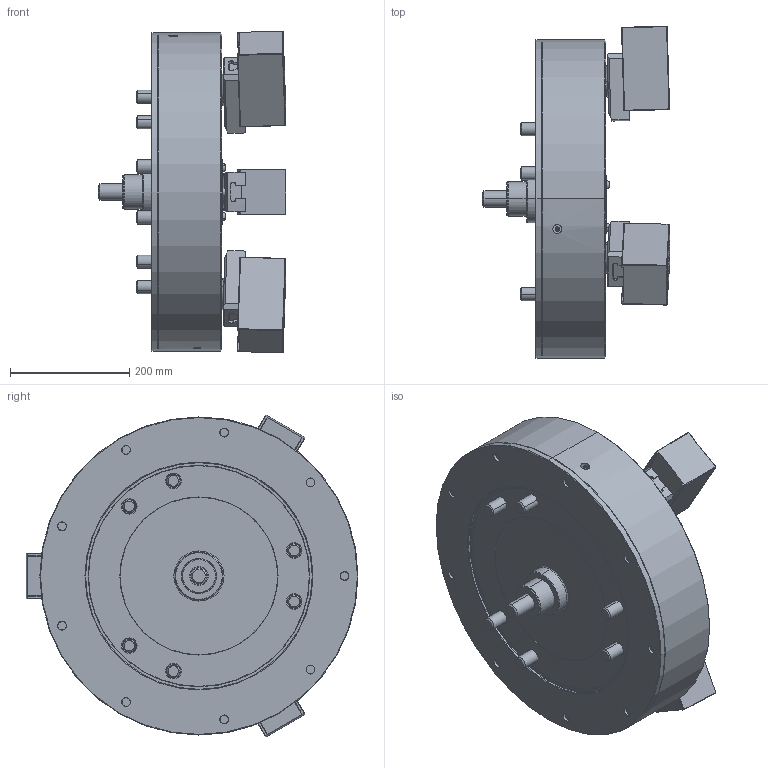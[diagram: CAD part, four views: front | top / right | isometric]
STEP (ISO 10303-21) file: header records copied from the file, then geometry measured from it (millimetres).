
FILE_DESCRIPTION (( 'STEP AP214' ), '1' );
FILE_NAME ('PW-21_OC_ID.STEP', '2023-08-02T07:01:08', ( '' ), ( '' ), 'SwSTEP 2.0', 'SolidWorks 2020', '' );
FILE_SCHEMA (( 'AUTOMOTIVE_DESIGN' ));
Length unit declared in the file: millimetre
Products named in the file (5): 0030120030; PW-21_OC_ID; Part5^61P118462_dummy_ID; 61P422878; PW-21_61P326096_ソフトジョー
Assembly tree (13 placements, depth 2):
  PW-21_OC_ID
    PW-21_61P326096_ソフトジョー  x3
    61P422878  x3
    0030120030  x6
    Part5^61P118462_dummy_ID
Bounding box: 313.74 x 556.25 x 538.97 mm (x, y, z)
Volume: 28477537.3 mm3; surface area: 1172863.4 mm2
Topology: 13 solids, 17 shells, 3194 faces, 8226 edges, 5332 vertices
Faces by surface type: plane 1879, bspline 584, cone 372, cylinder 319, torus 32, sphere 8
Entity records: 112588 total; most frequent: CARTESIAN_POINT 44164, ORIENTED_EDGE 15284, DIRECTION 11692, EDGE_CURVE 7642, VECTOR 5114, LINE 5114, VERTEX_POINT 4989, AXIS2_PLACEMENT_3D 3289
